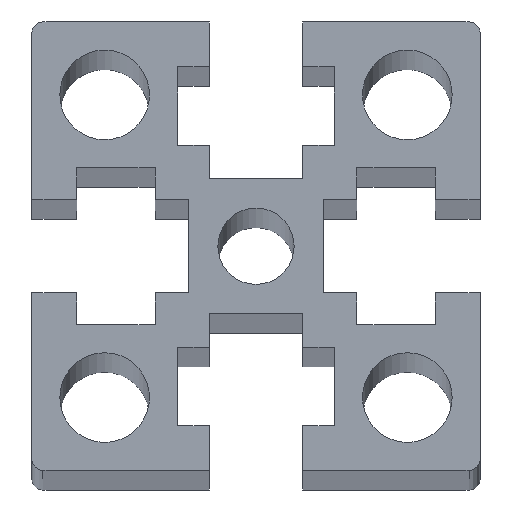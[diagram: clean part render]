
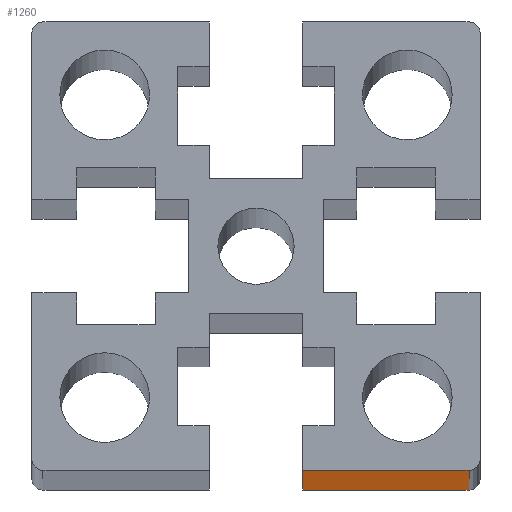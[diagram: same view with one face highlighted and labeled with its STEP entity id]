
A CAD part, top view. The second image highlights one B-rep face of the part: STEP entity #1260.
In plain terms, the highlighted planar face has unit normal (0, -1, 0).
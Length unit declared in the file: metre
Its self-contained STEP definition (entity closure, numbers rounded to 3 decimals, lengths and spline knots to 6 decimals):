
#94=LINE('',#1894,#254);
#95=LINE('',#1897,#255);
#96=LINE('',#1899,#256);
#97=LINE('',#1900,#257);
#254=VECTOR('',#1550,1.);
#255=VECTOR('',#1553,0.01485);
#256=VECTOR('',#1554,0.01485);
#257=VECTOR('',#1555,1.);
#360=PLANE('',#1340);
#436=FACE_OUTER_BOUND('',#504,.T.);
#504=EDGE_LOOP('',(#984,#985,#986,#987));
#628=VERTEX_POINT('',#1890);
#629=VERTEX_POINT('',#1892);
#630=VERTEX_POINT('',#1896);
#631=VERTEX_POINT('',#1898);
#778=EDGE_CURVE('',#628,#629,#94,.T.);
#779=EDGE_CURVE('',#628,#630,#95,.T.);
#780=EDGE_CURVE('',#631,#629,#96,.T.);
#781=EDGE_CURVE('',#630,#631,#97,.T.);
#984=ORIENTED_EDGE('',*,*,#779,.F.);
#985=ORIENTED_EDGE('',*,*,#778,.T.);
#986=ORIENTED_EDGE('',*,*,#780,.F.);
#987=ORIENTED_EDGE('',*,*,#781,.F.);
#1260=ADVANCED_FACE('',(#436),#360,.T.);
#1340=AXIS2_PLACEMENT_3D('',#1895,#1551,#1552);
#1550=DIRECTION('',(0.,0.,1.));
#1551=DIRECTION('center_axis',(0.,-1.,0.));
#1552=DIRECTION('ref_axis',(0.,0.,-1.));
#1553=DIRECTION('',(-1.,0.,0.));
#1554=DIRECTION('',(1.,0.,0.));
#1555=DIRECTION('',(0.,0.,1.));
#1890=CARTESIAN_POINT('',(0.019,-0.02,0.));
#1892=CARTESIAN_POINT('',(0.019,-0.02,1.));
#1894=CARTESIAN_POINT('',(0.019,-0.02,0.));
#1895=CARTESIAN_POINT('Origin',(0.00415,-0.02,0.));
#1896=CARTESIAN_POINT('',(0.00415,-0.02,0.));
#1897=CARTESIAN_POINT('',(0.019,-0.02,0.));
#1898=CARTESIAN_POINT('',(0.00415,-0.02,1.));
#1899=CARTESIAN_POINT('',(0.00415,-0.02,1.));
#1900=CARTESIAN_POINT('',(0.00415,-0.02,0.));
